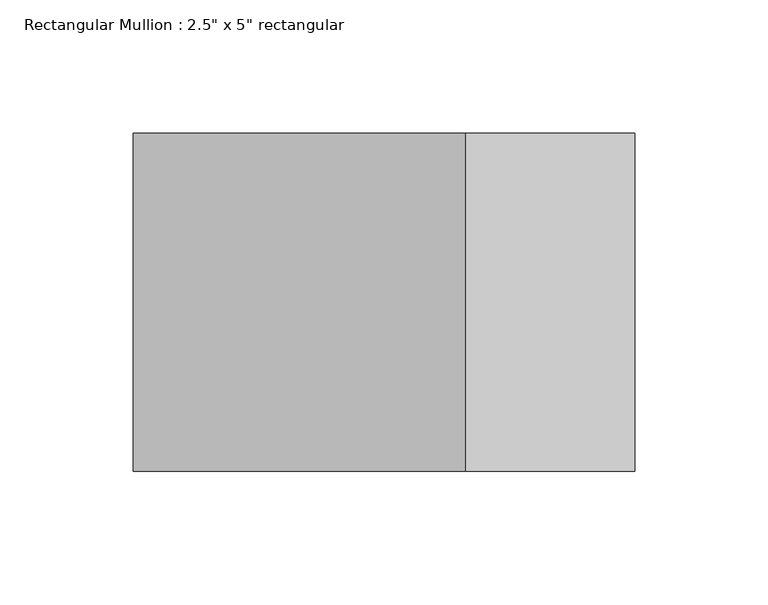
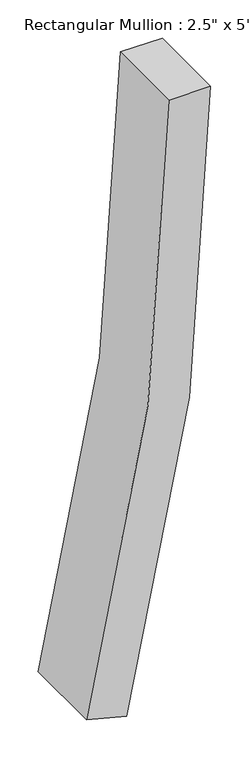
"""IFC4 building model written with IfcOpenShell, lengths in millimetres: member geometry."""

from ifc_helpers import new_model, si_unit, point, frame, frame_2d, origin, place, context, project, spatial, polyline, circle_curve, trimmed, segment, composite_curve, outline, extrude, source, transform, mapped, element, save


def member_fa7abc04(model_context):
    return source(origin(), model_context, "Body", "SweptSolid", [
        extrude(outline(composite_curve([segment(trimmed(circle_curve(frame_2d((0.0, -3722.1588985)), 3722.1588985), [point((-965.0423935, -127.2792003))], [point((0.0, 0.0))], False, "CARTESIAN"), True, "CONTINUOUS"), segment(polyline([(0.0, 0.0), (0.0, -63.5)]), True, "CONTINUOUS"), segment(trimmed(circle_curve(frame_2d((0.0, -3722.1588985)), 3658.6588985), [point((0.0, -63.5))], [point((-948.5787783, -188.6078182))], True, "CARTESIAN"), True, "CONTINUOUS"), segment(polyline([(-948.5787783, -188.6078182), (-965.0423935, -127.2792003)]), True, "CONTINUOUS")], self_intersect=False)), frame((0.0, -63.5, 0.0), z_axis=(0.0, 1.0, 0.0), x_axis=(0.0, 0.0, 1.0)), (0.0, 0.0, 1.0), 127.0),
    ])


if __name__ == "__main__":
    model = new_model("IFC4")
    model_context = context("Model", 3, world=origin())
    ifc_project = project(units=[si_unit("LENGTHUNIT", "METRE", prefix="MILLI")], contexts=[model_context])
    site = spatial("IfcSite", under=ifc_project)
    building = spatial("IfcBuilding", under=site)
    placement = place(None, origin())
    member_shape = member_fa7abc04(model_context)
    element("IfcMember", 1, ObjectType="Rectangular Mullion : 2.5\" x 5\" rectangular", at=placement, inside=building, context=model_context, shape_type="MappedRepresentation", body=[
        mapped(member_shape, transform((0.0, 0.0, 0.0), x_axis=(1.0, 0.0, 0.0), y_axis=(0.0, 1.0, 0.0), z_axis=(0.0, 0.0, 1.0))),
    ])
    save(model, "model.ifc")
